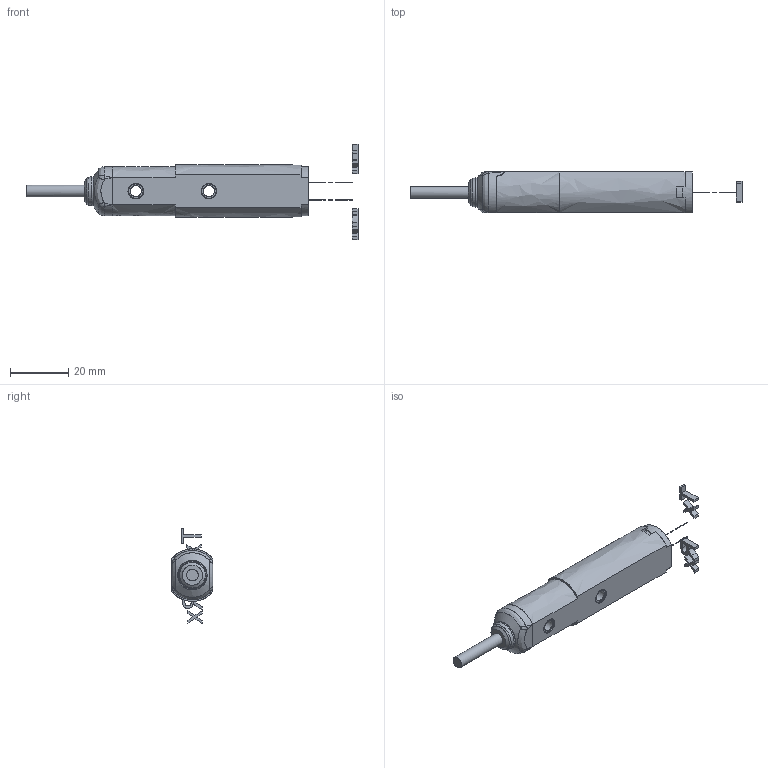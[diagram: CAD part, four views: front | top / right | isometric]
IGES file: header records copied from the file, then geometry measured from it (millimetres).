
Global section: file name: D:\TMP\DSD-0028.igs; preprocessor: I-DEAS 3D IGES Translator 11; date: 20060606.172104; units: millimetre
Bounding box: 113.58 x 14.3 x 32.67 mm (x, y, z)
Volume: 91.1 mm3; surface area: 5588.9 mm2
Topology: 8 solids, 8 shells, 223 faces, 1100 edges, 1000 vertices
Faces by surface type: bspline 223
